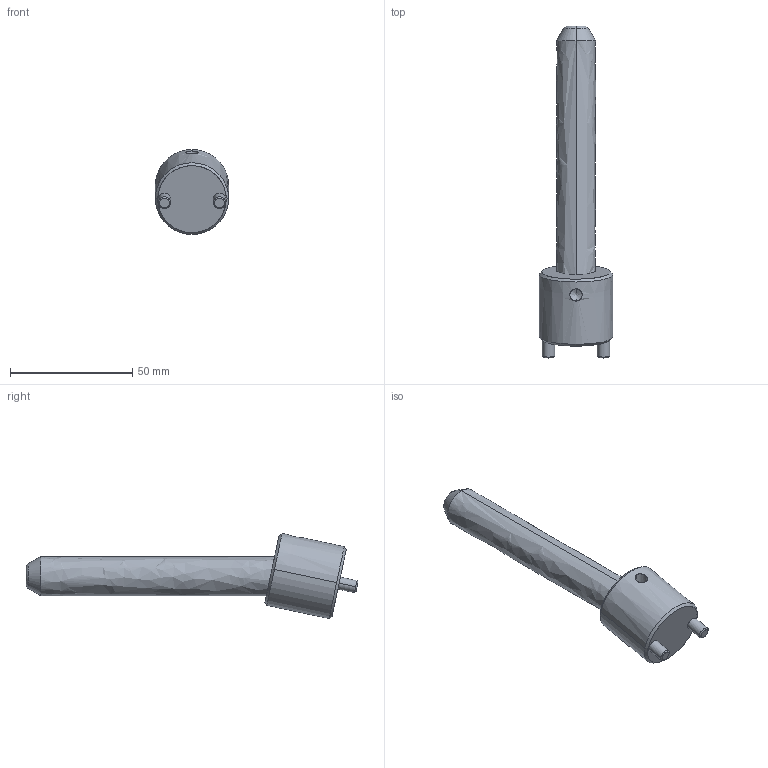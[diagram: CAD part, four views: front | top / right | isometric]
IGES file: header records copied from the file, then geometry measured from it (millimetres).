
Start section: START RECORD GO HERE.
Global section: file name: CI1216100.igs; native system: DASSAULT SYSTEMES CATIA V5 R20 - www.3ds.com; preprocessor: CATIA Version 5 Release 20 ; author: r.borello; organization: CFTORINO; date: 20190621.160309; units: millimetre
Bounding box: 30 x 135.76 x 34.75 mm (x, y, z)
Surface area: 11970.3 mm2 (no closed solid volume)
Topology: 0 solids, 0 shells, 39 faces, 162 edges, 160 vertices
Faces by surface type: revolution 32, plane 7
